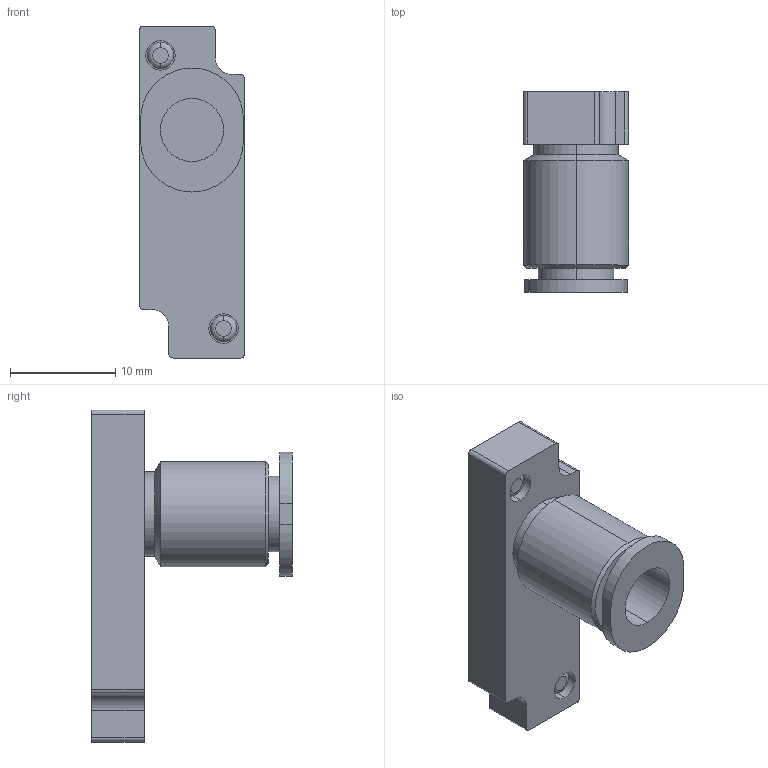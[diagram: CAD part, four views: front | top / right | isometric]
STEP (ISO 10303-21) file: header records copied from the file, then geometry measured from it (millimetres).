
FILE_DESCRIPTION( (''), '2;1');
FILE_NAME ('CVICAD02.14868.F10_Port-FJ6A_4614.stp','2020-09-01T14:04:12',(''),(''),'spGate 12.6.6','','');
FILE_SCHEMA (('AUTOMOTIVE_DESIGN'));
Length unit declared in the file: millimetre
Bounding box: 10 x 19.1 x 31.6 mm (x, y, z)
Volume: 2167.2 mm3; surface area: 1803.7 mm2
Topology: 1 solids, 1 shells, 50 faces, 114 edges, 74 vertices
Faces by surface type: cylinder 22, plane 20, bspline 8
Entity records: 2477 total; most frequent: CARTESIAN_POINT 396, DIRECTION 232, ORIENTED_EDGE 228, COLOUR_RGB 165, PRESENTATION_STYLE_ASSIGNMENT 165, STYLED_ITEM 165, EDGE_CURVE 114, DRAUGHTING_PRE_DEFINED_CURVE_FONT 114
